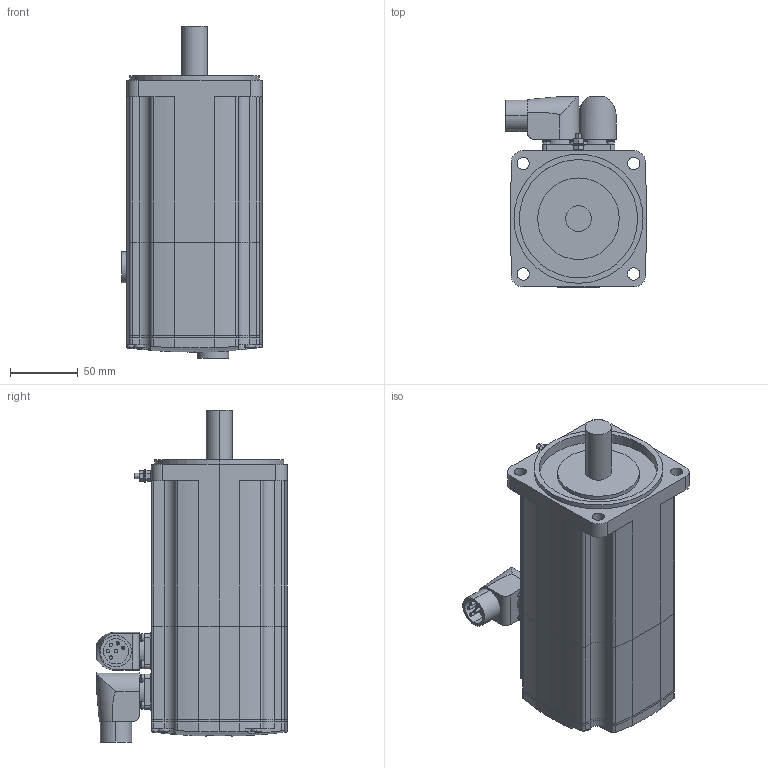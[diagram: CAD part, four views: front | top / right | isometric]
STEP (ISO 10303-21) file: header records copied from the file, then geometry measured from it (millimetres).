
FILE_DESCRIPTION (( 'STEP AP214' ), '1' );
FILE_NAME ('SH31001x0xF2100.STEP', '2013-11-29T09:05:58', ( 'Windows User' ), ( 'Schneider-Electric' ), 'SwSTEP 2.0', 'SolidWorks 2010', '' );
FILE_SCHEMA (( 'AUTOMOTIVE_DESIGN' ));
Length unit declared in the file: millimetre
Products named in the file (8): 1-100005292_DECKEL SH3-100X-X_VM0_Deckel SH3-100x; 1-100010978_K-FLACHDICHTUNG BMH-MH3-100_000; 1-100008863_LAGERSCHILD-SH3-100X-F_VM0_Lagerschild-SH3-100x-F; 1-100008871_TOPFGEHÄUSE-SH3-100X_VM0_TOPFGEHÄUSE BSH1001-F ohne Passfeder; 1-100011011_K-ERDUNGSBOLZEN M4_000; K-POWER-CONINVERS-ABGEWIN_POWER-CONINVERS-ABGEWINKELT_000_mit Bremse; K-ENCODER-CONINVERS-ABGEW_ENCODER-CONINVERS-ABGEWINKELT_000_Single- MultiTurn; SH31001x0xF2100
Assembly tree (7 placements, depth 2):
  SH31001x0xF2100
    1-100010978_K-FLACHDICHTUNG BMH-MH3-100_000
    1-100005292_DECKEL SH3-100X-X_VM0_Deckel SH3-100x
    1-100008863_LAGERSCHILD-SH3-100X-F_VM0_Lagerschild-SH3-100x-F
    1-100008871_TOPFGEHÄUSE-SH3-100X_VM0_TOPFGEHÄUSE BSH1001-F ohne Passfeder
    1-100011011_K-ERDUNGSBOLZEN M4_000
    K-POWER-CONINVERS-ABGEWIN_POWER-CONINVERS-ABGEWINKELT_000_mit Bremse
    K-ENCODER-CONINVERS-ABGEW_ENCODER-CONINVERS-ABGEWINKELT_000_Single- MultiTurn
Bounding box: 103.65 x 139.9 x 244.25 mm (x, y, z)
Volume: 1798890.5 mm3; surface area: 168608.7 mm2
Topology: 7 solids, 7 shells, 455 faces, 1121 edges, 734 vertices
Faces by surface type: cylinder 235, plane 196, torus 16, sphere 4, bspline 4
Entity records: 15044 total; most frequent: CARTESIAN_POINT 3534, DIRECTION 2510, ORIENTED_EDGE 2242, EDGE_CURVE 1121, AXIS2_PLACEMENT_3D 978, VERTEX_POINT 734, VECTOR 554, LINE 554
